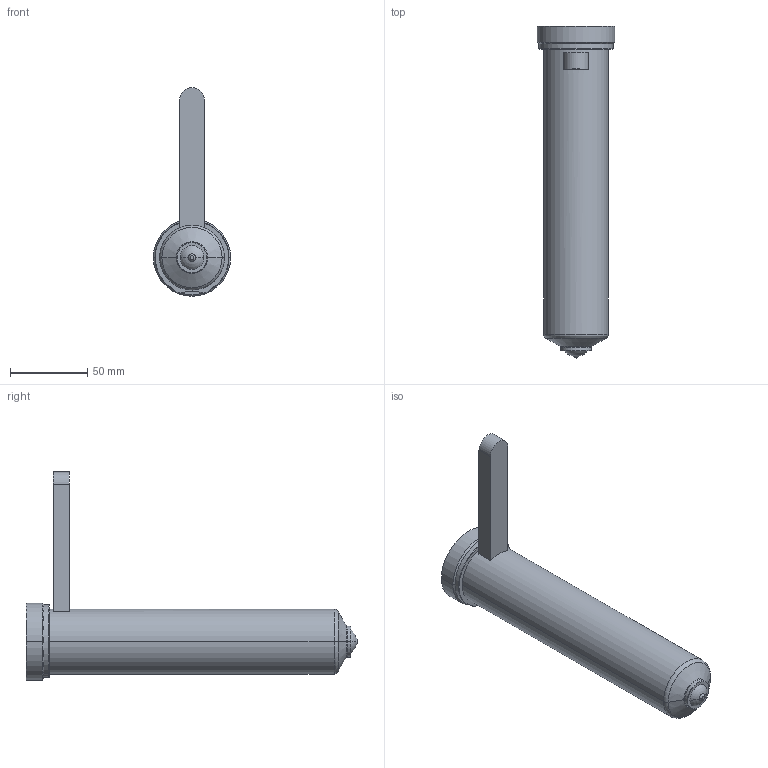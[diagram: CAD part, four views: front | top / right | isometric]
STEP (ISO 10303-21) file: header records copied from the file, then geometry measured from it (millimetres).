
FILE_DESCRIPTION((''),'2;1');
FILE_NAME('EO16_PG-BL_STD_200_COT','2024-02-19T11:17:33',('sundharh'),(''),'CREO PARAMETRIC BY PTC INC, 2023154','CREO PARAMETRIC BY PTC INC, 2023154','');
FILE_SCHEMA(('CONFIG_CONTROL_DESIGN'));
Length unit declared in the file: millimetre
Products named in the file (1): EO16_PG-BL_STD_200_COT
Bounding box: 50 x 215 x 135 mm (x, y, z)
Volume: 307764.6 mm3; surface area: 35703.9 mm2
Topology: 1 solids, 1 shells, 40 faces, 85 edges, 50 vertices
Faces by surface type: cylinder 13, plane 10, torus 9, cone 6, sphere 2
Entity records: 1201 total; most frequent: CARTESIAN_POINT 271, DIRECTION 209, ORIENTED_EDGE 170, AXIS2_PLACEMENT_3D 90, EDGE_CURVE 85, VERTEX_POINT 50, CIRCLE 50, EDGE_LOOP 43
